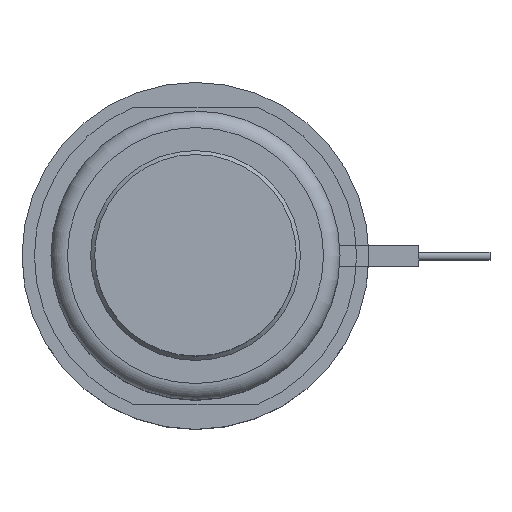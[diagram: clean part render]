
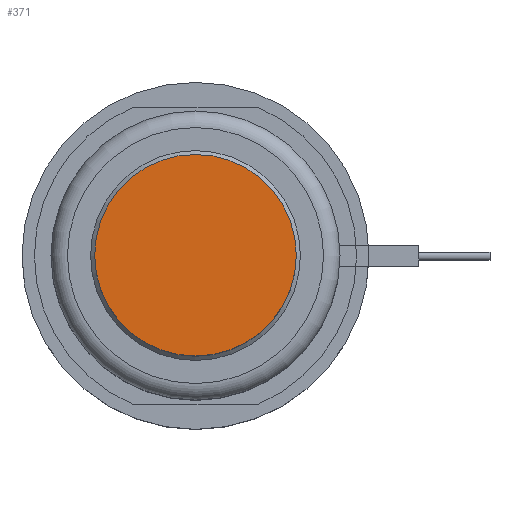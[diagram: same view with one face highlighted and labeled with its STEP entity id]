
A CAD part, top view. The second image highlights one B-rep face of the part: STEP entity #371.
In plain terms, the highlighted planar face has unit normal (0, 0, 1).
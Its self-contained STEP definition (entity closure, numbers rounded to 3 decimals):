
#248=PLANE('',#1350);
#296=FACE_OUTER_BOUND('',#593,.T.);
#371=ADVANCED_FACE('',(#296),#248,.F.);
#593=EDGE_LOOP('',(#743));
#743=ORIENTED_EDGE('',*,*,#1117,.F.);
#1006=VERTEX_POINT('',#1964);
#1117=EDGE_CURVE('',#1006,#1006,#1255,.T.);
#1255=CIRCLE('',#1349,12.2);
#1349=AXIS2_PLACEMENT_3D('',#1963,#1555,#1556);
#1350=AXIS2_PLACEMENT_3D('',#1965,#1557,#1558);
#1555=DIRECTION('',(0.,0.,-1.));
#1556=DIRECTION('',(-1.,0.,0.));
#1557=DIRECTION('',(0.,0.,-1.));
#1558=DIRECTION('',(-1.,0.,0.));
#1963=CARTESIAN_POINT('',(0.,0.,18.));
#1964=CARTESIAN_POINT('',(-12.2,0.,18.));
#1965=CARTESIAN_POINT('',(0.,0.,18.));
